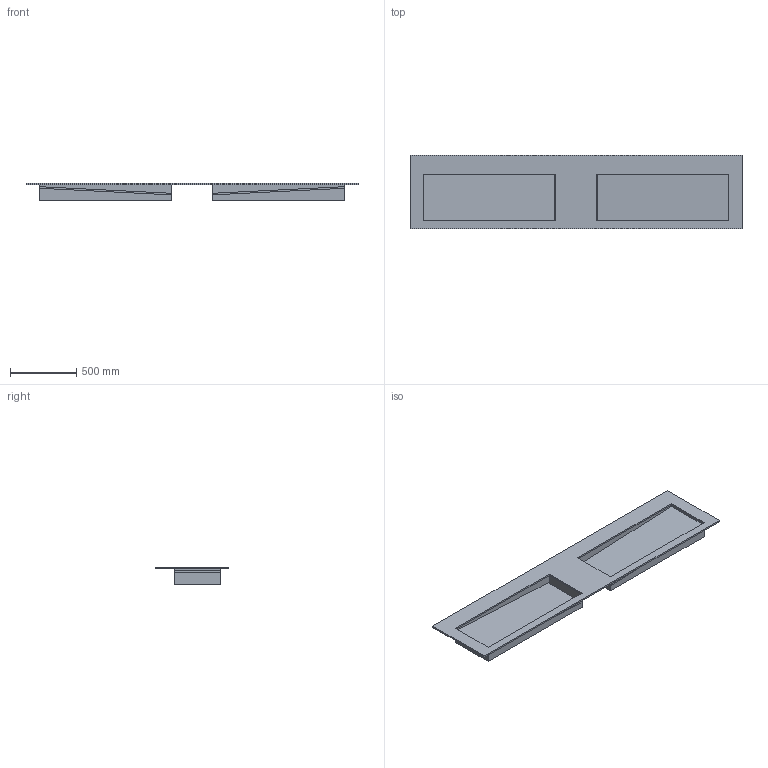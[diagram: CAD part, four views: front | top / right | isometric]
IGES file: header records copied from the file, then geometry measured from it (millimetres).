
Start section:  Autodesk Design for Windows version 2010 IGES version 5.3  Autodesk Design for Windows version 2010 IGES version 5.3
Global section: file name: D:\Desktop\GIOVANNI\SCHEDE PRODOTTO\PIANI LAVABO\XS\3D\MOMA DESIGN_PIANI LAVABO_XS MODULE DOUBLE.igs; native system: Rhinoceros ( Jan 17 2018 ); preprocessor: Trout Lake IGES 012 Jan 17 2018; date: 230607.130005; units: millimetre
Bounding box: 2500 x 550 x 130 mm (x, y, z)
Surface area: 3639321.3 mm2 (no closed solid volume)
Topology: 0 solids, 0 shells, 34 faces, 152 edges, 152 vertices
Faces by surface type: bspline 34
